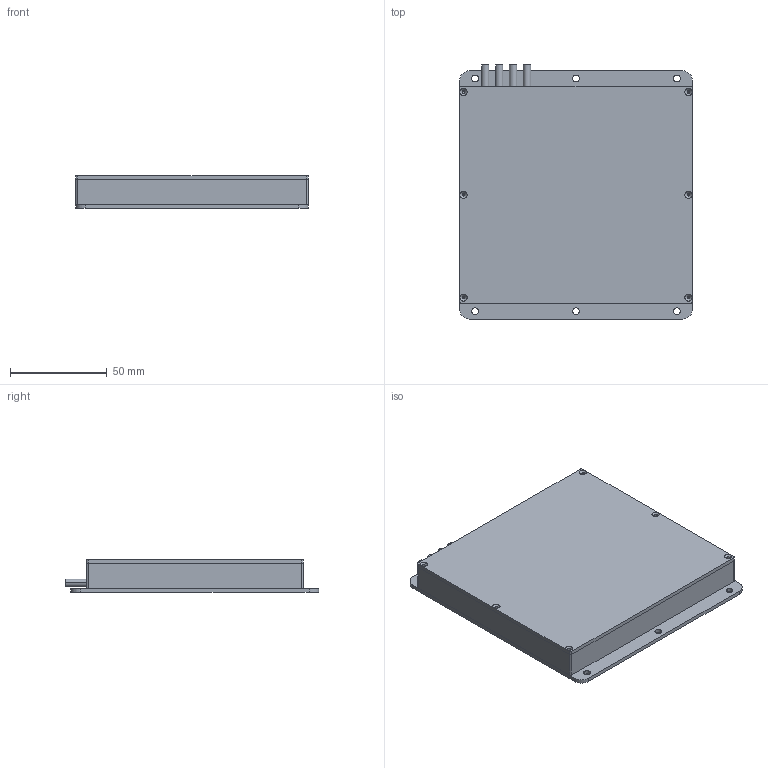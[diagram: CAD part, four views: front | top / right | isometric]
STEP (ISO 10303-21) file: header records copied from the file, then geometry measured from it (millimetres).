
FILE_DESCRIPTION (( 'STEP AP203' ), '1' );
FILE_NAME ('PPX-BO120112-RGBW-V1.STEP', '2022-08-31T03:27:01', ( 'Windows User' ), ( 'P R C' ), 'SwSTEP 2.0', 'SolidWorks 2016', '' );
FILE_SCHEMA (( 'CONFIG_CONTROL_DESIGN' ));
Length unit declared in the file: millimetre
Products named in the file (1): PPX-BO120112-RGBW-V1
Bounding box: 120 x 130.96 x 17 mm (x, y, z)
Volume: 112316.8 mm3; surface area: 107431.8 mm2
Topology: 8 solids, 8 shells, 1135 faces, 2779 edges, 1822 vertices
Faces by surface type: plane 979, cylinder 108, cone 48
Entity records: 32802 total; most frequent: CARTESIAN_POINT 5713, ORIENTED_EDGE 5510, DIRECTION 5273, EDGE_CURVE 2755, VECTOR 2509, LINE 2509, VERTEX_POINT 1822, AXIS2_PLACEMENT_3D 1382
